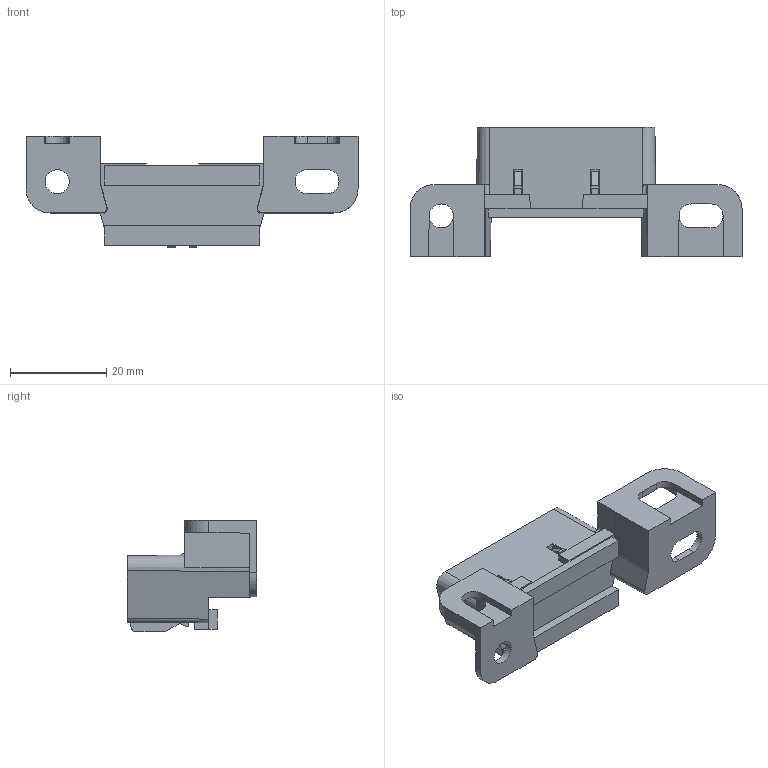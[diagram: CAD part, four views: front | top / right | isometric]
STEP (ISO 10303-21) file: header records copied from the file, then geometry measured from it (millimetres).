
FILE_DESCRIPTION(/* description */ (''),/* implementation_level */ '2;1');
FILE_NAME(/* name */ '12110250-ENV11_06-CONN.stp',/* time_stamp */ '2021-09-07T13:13:22+06:00',/* author */ (''),/* organization */ (''),/* preprocessor_version */ 'ST-DEVELOPER v16',/* originating_system */ 'SIEMENS PLM Software NX 11.0',/* authorisation */ '');
FILE_SCHEMA (('AP203_CONFIGURATION_CONTROLLED_3D_DESIGN_OF_MECHANICAL_PARTS_AND_ASSEMBLIES_MIM_LF { 1 0 10303 403 2 1 2}'));
Length unit declared in the file: millimetre
Products named in the file (1): hjcv2F283C201yw6
Bounding box: 69.1 x 27 x 23.3 mm (x, y, z)
Volume: 10933.7 mm3; surface area: 6138.2 mm2
Topology: 1 solids, 1 shells, 171 faces, 486 edges, 314 vertices
Faces by surface type: plane 145, cylinder 20, cone 4, bspline 2
Full cylindrical faces by diameter (mm): 5 x1
Entity records: 5632 total; most frequent: CARTESIAN_POINT 1069, ORIENTED_EDGE 968, DIRECTION 870, EDGE_CURVE 484, LINE 418, VECTOR 418, VERTEX_POINT 313, AXIS2_PLACEMENT_3D 226
